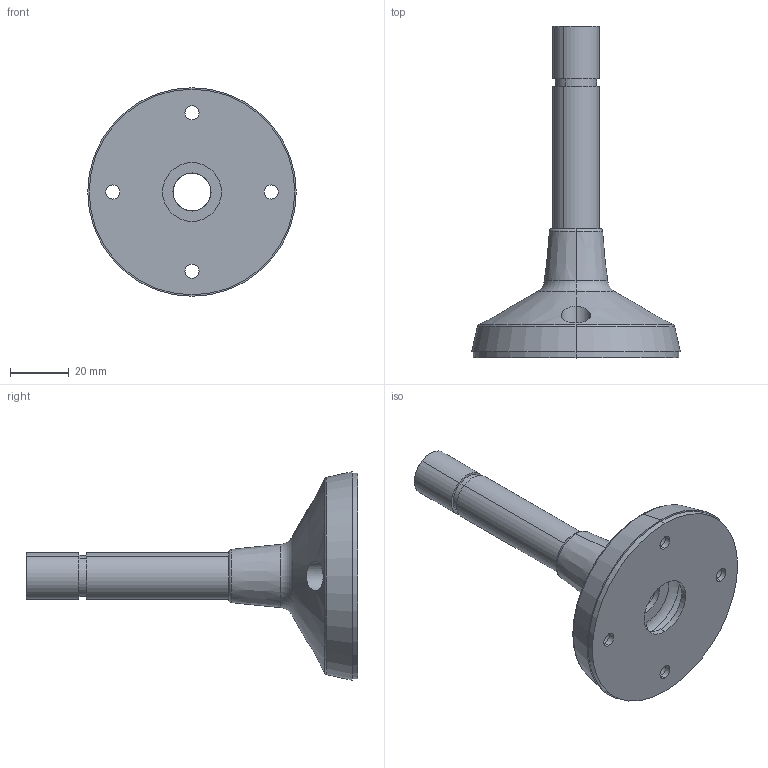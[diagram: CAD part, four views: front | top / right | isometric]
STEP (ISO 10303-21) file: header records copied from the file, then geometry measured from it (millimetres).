
FILE_DESCRIPTION (( 'STEP AP214' ), '1' );
FILE_NAME ('28250150010 - BR50-S100.STEP', '2007-11-14T08:10:06', ( ' ' ), ( ' ' ), 'SwSTEP 2.0', 'SolidWorks 2007', '' );
FILE_SCHEMA (( 'AUTOMOTIVE_DESIGN' ));
Length unit declared in the file: millimetre
Products named in the file (1): 28250150010 - BR50-S100
Bounding box: 71 x 113 x 71 mm (x, y, z)
Volume: 59824.6 mm3; surface area: 30533.8 mm2
Topology: 3 solids, 3 shells, 78 faces, 174 edges, 108 vertices
Faces by surface type: cylinder 40, cone 16, plane 14, torus 8
Entity records: 3427 total; most frequent: CARTESIAN_POINT 667, DIRECTION 432, ORIENTED_EDGE 348, AXIS2_PLACEMENT_3D 187, EDGE_CURVE 174, VERTEX_POINT 108, CIRCLE 108, EDGE_LOOP 106
